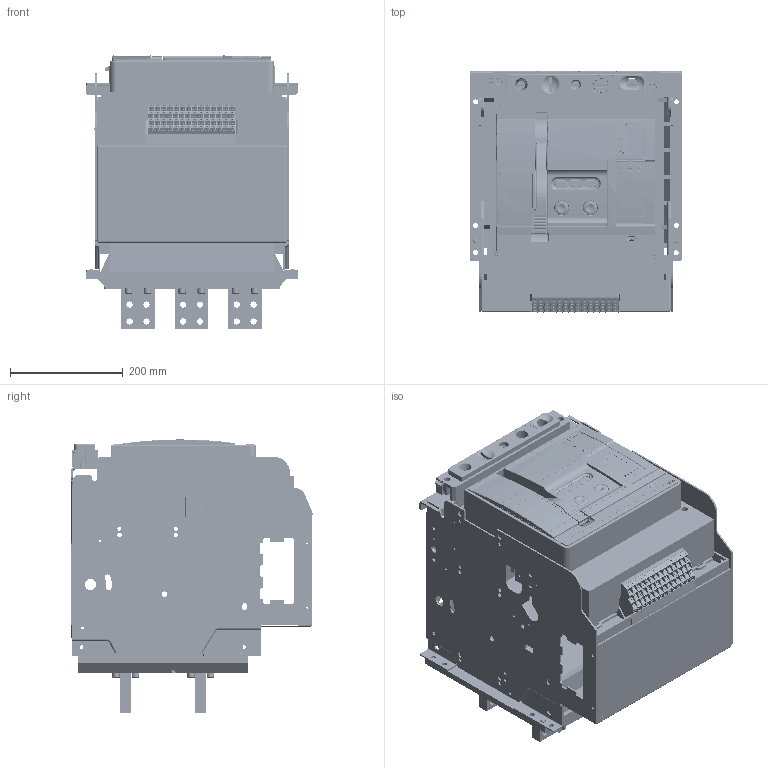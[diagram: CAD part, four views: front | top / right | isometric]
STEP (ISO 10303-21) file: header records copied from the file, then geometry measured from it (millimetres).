
FILE_DESCRIPTION(/* description */ (''),/* implementation_level */ '2;1');
FILE_NAME(/* name */ 'C:/Users/carlos.gonzalez/Documents/ADRIAN_TEMP_DRAWING/Ex9A25_3P_2000_DO_PB_Drawing.step',/* time_stamp */ '2021-10-14T12:36:59+02:00',/* author */ (''),/* organization */ (''),/* preprocessor_version */ 'ST-DEVELOPER v18.1',/* originating_system */ 'Autodesk Translation Framework v10.10.0.1391',/* authorisation */ '');
FILE_SCHEMA (('AUTOMOTIVE_DESIGN { 1 0 10303 214 3 1 1 }'));
Products named in the file (60): Ex9A25_3P_DO; Auxiliary terminals; 5ZTD-558-695-2500_ASM; 5ZTD-558-712_ASM; 5ZTD-558-712_ASM_1; 5ZTD-558-712_ASM_2; 5ZTD-558-712_ASM_3; 5ZTD-558-712_ASM_4; 5ZTD-558-712_ASM_5; 5ZTD-558-712_ASM_6; 5ZTD-558-712_ASM_7; 5ZTD-558-712_ASM_8; 5ZTD-558-712_ASM_9; 5ZTD-558-712_ASM_10; 5ZTD-558-712_ASM_11; 5ZTD-558-712_ASM_12; 5ZTD-558-712_ASM_13; 8ZTD-024-837; 8ZTD-557-514; 8ZTD-557-515; 8ZTD-557-516; 8ZTD-557-517; M3_GB6170; M3X8_GB818; 8ZTD-141-185; 8ZTD-141-184; 8ZTD-860-699; 8ZTD-064-137; Main terminals; Bolts; GBT70_1-M8X20; Washers; GBT93-8; 8580A0412105; Internal components; 8ZTD_050_653; 8ZTD_300_532; 8ZTD_050_654; 8300A0101107-20170317; 8050A0306129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
Assembly tree (312 placements, depth 5):
  Ex9A25_3P_DO
    Auxiliary terminals
      5ZTD-558-695-2500_ASM
        5ZTD-558-712_ASM
          8ZTD-024-837
          8ZTD-557-514
          8ZTD-557-515
          8ZTD-557-516
          8ZTD-557-517
          M3_GB6170  x4
          M3X8_GB818  x4
          8ZTD-141-185
          8ZTD-141-184
        5ZTD-558-712_ASM_1
          8ZTD-024-837
          8ZTD-557-514
          8ZTD-557-515
          8ZTD-557-516
          8ZTD-557-517
          M3_GB6170  x4
          M3X8_GB818  x4
          8ZTD-141-185
          8ZTD-141-184
        5ZTD-558-712_ASM_2
          8ZTD-024-837
          8ZTD-557-514
          8ZTD-557-515
          8ZTD-557-516
          8ZTD-557-517
          M3_GB6170  x4
          M3X8_GB818  x4
          8ZTD-141-185
          8ZTD-141-184
        5ZTD-558-712_ASM_3
          8ZTD-024-837
          8ZTD-557-514
          8ZTD-557-515
          8ZTD-557-516
          8ZTD-557-517
          M3_GB6170  x4
          M3X8_GB818  x4
          8ZTD-141-185
          8ZTD-141-184
        5ZTD-558-712_ASM_4
          8ZTD-024-837
          8ZTD-557-514
          8ZTD-557-515
          8ZTD-557-516
          8ZTD-557-517
          M3_GB6170  x4
          M3X8_GB818  x4
          8ZTD-141-185
          8ZTD-141-184
        5ZTD-558-712_ASM_5
          8ZTD-024-837
          8ZTD-557-514
          8ZTD-557-515
          8ZTD-557-516
          8ZTD-557-517
          M3_GB6170  x4
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Bounding box: 375.5 x 428.53 x 484.49 mm (x, y, z)
Volume: 12497659.7 mm3; surface area: 3174553.3 mm2
Topology: 289 solids, 341 shells, 21640 faces, 56508 edges, 36676 vertices
Faces by surface type: plane 16381, cylinder 2887, cone 1057, bspline 800, torus 386, sphere 129
Full cylindrical faces by diameter (mm): 2 x539, 2.1 x2, 2.246 x56, 2.5 x3, 2.6 x2, 3 x81, 3.2 x9, 3.4 x3, 3.5 x57, 4 x94, 4.3 x1, 4.5 x4, 5 x27, 5.008 x1, 5.5 x5, 6 x20, 6.1 x1, 6.5 x9, 6.647 x24, 7 x22, 8 x31, 8.3 x2, 8.5 x24, 9 x13, 10 x2, 10.5 x1, 11 x25, 11.5 x1, 12 x4, 12.5 x3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
Entity records: 243705 total; most frequent: CARTESIAN_POINT 92605, ORIENTED_EDGE 31416, DIRECTION 30107, EDGE_CURVE 15752, LINE 11283, VECTOR 11283, VERTEX_POINT 10232, AXIS2_PLACEMENT_3D 9412
